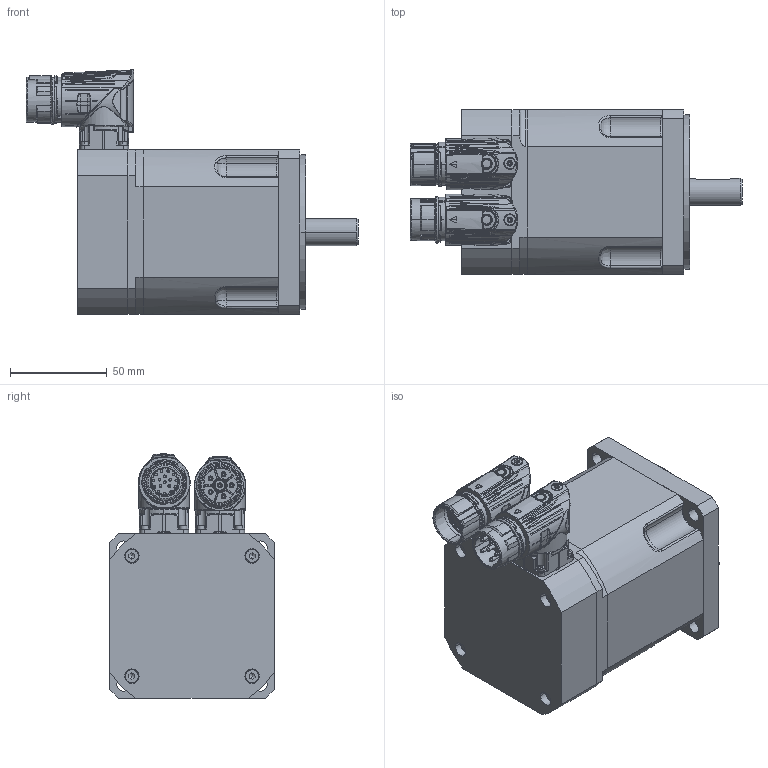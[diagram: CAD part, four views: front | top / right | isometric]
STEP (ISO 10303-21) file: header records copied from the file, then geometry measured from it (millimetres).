
FILE_DESCRIPTION(('CATIA V5 STEP Exchange'),'2;1');
FILE_NAME('C:\Documents and Settings\max\Documenti\sangallimotori\3d step\compatti\motore_DSM5_30_Freno.stp','2010-12-12T20:57:38+00:00',('none'),('none'),'CATIA Version 5 Release 10 (IN-8)','CATIA V5 STEP AP203',' none');
FILE_SCHEMA(('CONFIG_CONTROL_DESIGN'));
Assembly tree (27 placements, depth 0):
Bounding box: 171.71 x 85 x 126.43 mm (x, y, z)
Volume: 786186.5 mm3; surface area: 120315.2 mm2
Topology: 23 solids, 28 shells, 4107 faces, 13916 edges, 9831 vertices
Faces by surface type: cylinder 1492, bspline 1326, plane 594, torus 345, cone 233, sphere 109, revolution 8
Entity records: 254872 total; most frequent: CARTESIAN_POINT 165105, ORIENTED_EDGE 25412, EDGE_CURVE 12763, VERTEX_POINT 9181, DIRECTION 8727, B_SPLINE_CURVE_WITH_KNOTS 7919, AXIS2_PLACEMENT_3D 4351, EDGE_LOOP 3819
